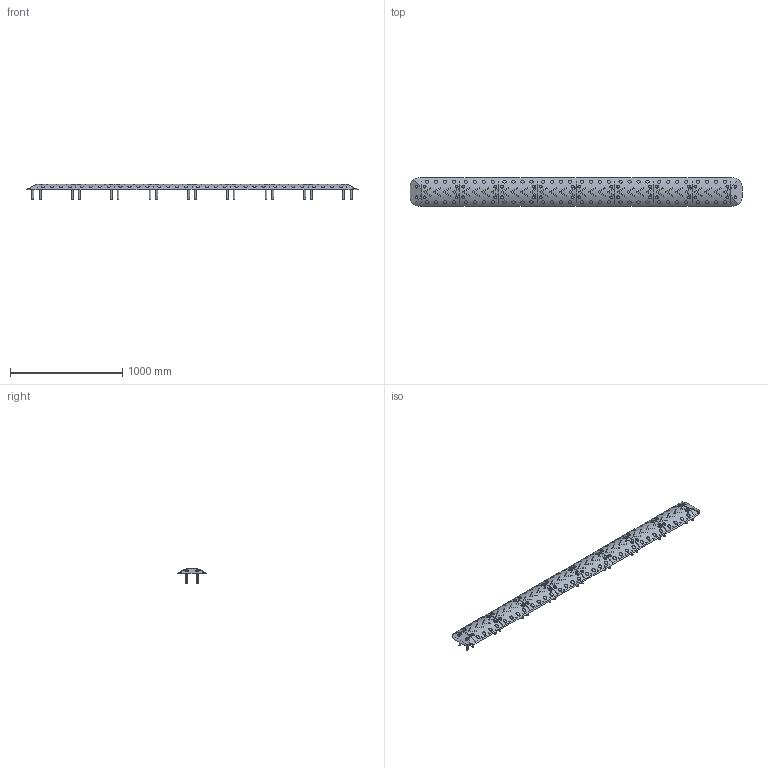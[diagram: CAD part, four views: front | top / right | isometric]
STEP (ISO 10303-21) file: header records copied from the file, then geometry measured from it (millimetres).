
FILE_DESCRIPTION(('FreeCAD Model'),'2;1');
FILE_NAME('Open CASCADE Shape Model','2026-10-04T05:47:37',('FreeCAD'),( 'FreeCAD'),'Open CASCADE STEP processor 7.8','FreeCAD','Unknown');
FILE_SCHEMA(('AUTOMOTIVE_DESIGN { 1 0 10303 214 1 1 1 1 }'));
Products named in the file (1): Open CASCADE STEP translator 7.8 1
Bounding box: 2960 x 250 x 140 mm (x, y, z)
Volume: 9799233.5 mm3; surface area: 4040362.6 mm2
Topology: 155 solids, 165 shells, 1776 faces, 3530 edges, 2358 vertices
Faces by surface type: plane 1260, cylinder 516
Full cylindrical faces by diameter (mm): 10 x36, 10.4 x36, 11 x36, 16 x36, 24 x36, 27 x36, 30 x64, 30.4 x64, 31 x36, 34 x64
Entity records: 64792 total; most frequent: CARTESIAN_POINT 26537, DIRECTION 8244, ORIENTED_EDGE 7060, EDGE_CURVE 3530, AXIS2_PLACEMENT_3D 3137, VERTEX_POINT 2358, FACE_BOUND 2266, EDGE_LOOP 2266
